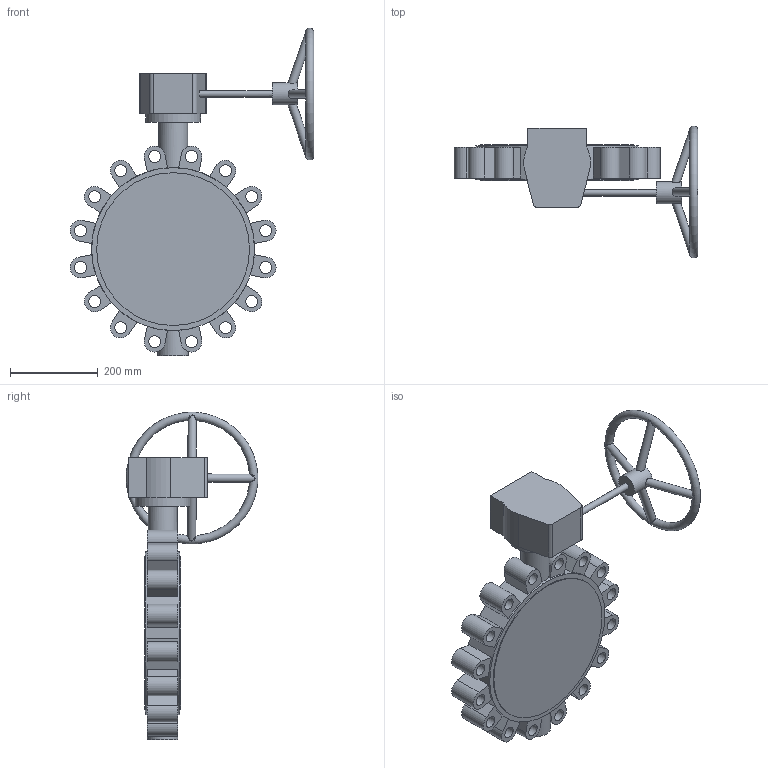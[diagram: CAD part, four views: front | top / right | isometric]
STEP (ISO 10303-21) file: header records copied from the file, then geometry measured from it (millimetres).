
FILE_DESCRIPTION (( 'STEP AP203' ), '1' );
FILE_NAME ('2502 LT型中线衬胶带销 手动头蝶阀 DN300 PN25 CD0309062.STEP', '2026-03-31T00:57:55', ( '' ), ( '' ), 'SwSTEP 2.0', 'SolidWorks 2018', '' );
FILE_SCHEMA (( 'CONFIG_CONTROL_DESIGN' ));
Length unit declared in the file: millimetre
Products named in the file (3): GALA-D300-01LCN25-00; G150蚾饜 潠趙; 2502 LT型中线衬胶带销 手动头蝶阀 DN300 PN25 CD0309062
Assembly tree (2 placements, depth 2):
  2502 LT型中线衬胶带销 手动头蝶阀 DN300 PN25 CD0309062
    GALA-D300-01LCN25-00
    G150蚾饜 潠趙
Bounding box: 554.81 x 299.99 x 746.02 mm (x, y, z)
Volume: 13957762.2 mm3; surface area: 842867.3 mm2
Topology: 2 solids, 3 shells, 147 faces, 372 edges, 250 vertices
Faces by surface type: plane 89, cylinder 56, torus 2
Full cylindrical faces by diameter (mm): 15 x1, 18.75 x4, 27 x16, 50 x1, 66 x1, 70 x1, 125 x1, 348 x2, 371 x1
Entity records: 9114 total; most frequent: CARTESIAN_POINT 5361, DIRECTION 712, ORIENTED_EDGE 656, EDGE_CURVE 328, AXIS2_PLACEMENT_3D 277, VERTEX_POINT 238, EDGE_LOOP 236, FACE_OUTER_BOUND 173
